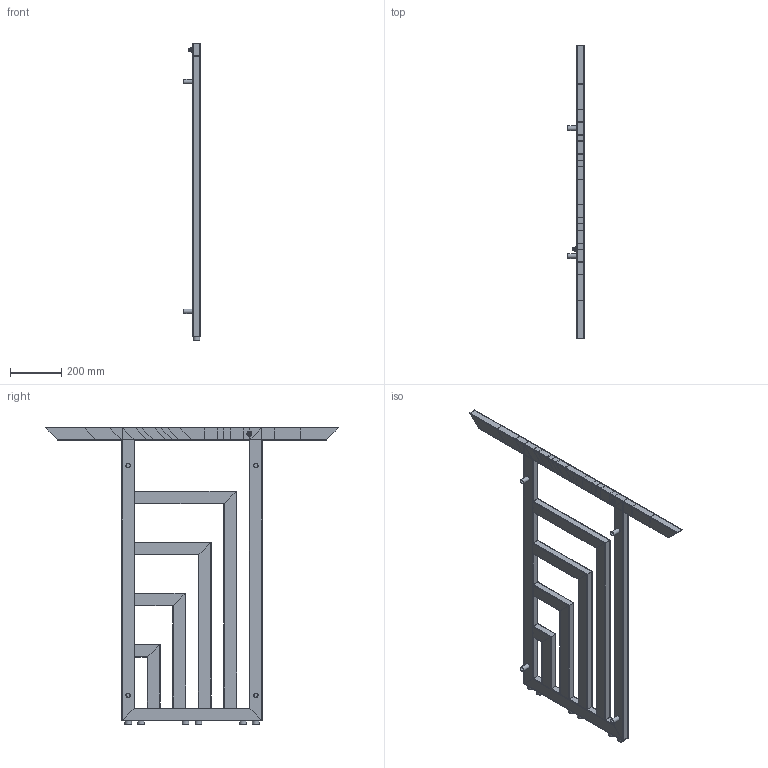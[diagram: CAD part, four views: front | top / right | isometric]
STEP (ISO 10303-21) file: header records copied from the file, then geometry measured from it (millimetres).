
FILE_DESCRIPTION( ( 'Unknown' ), '1' );
FILE_NAME( 'D:/RYSUNKI/RYSUNKI SOLID/SEJWAL/NOWE/2021/ANTIGUA/ANTIGUA.stp', 'Unknown', ( 'Unknown' ), ( 'Unknown' ), 'XStep 1.0', 'Unknown', ' ' );
FILE_SCHEMA( ( 'automotive_design' ) );
Length unit declared in the file: millimetre
Products named in the file (14): Assem1; P550; P1150; P400; P300; P450-45; P200; P250-45; P100; P650; P850; PRZY｣ACZ; ODPOWIETRZNIK; MOCOWANIE
Bounding box: 65 x 1150 x 1165 mm (x, y, z)
Volume: 3282659.4 mm3; surface area: 3302798 mm2
Topology: 36 solids, 36 shells, 504 faces, 1294 edges, 866 vertices
Faces by surface type: plane 252, cylinder 236, torus 14, cone 2
Full cylindrical faces by diameter (mm): 4.066 x2, 15 x5, 18 x5, 20 x2, 21.49 x7, 26 x7
Entity records: 8103 total; most frequent: CARTESIAN_POINT 2277, DIRECTION 1144, ORIENTED_EDGE 1116, EDGE_CURVE 558, AXIS2_PLACEMENT_3D 402, VERTEX_POINT 379, LINE 340, VECTOR 340
